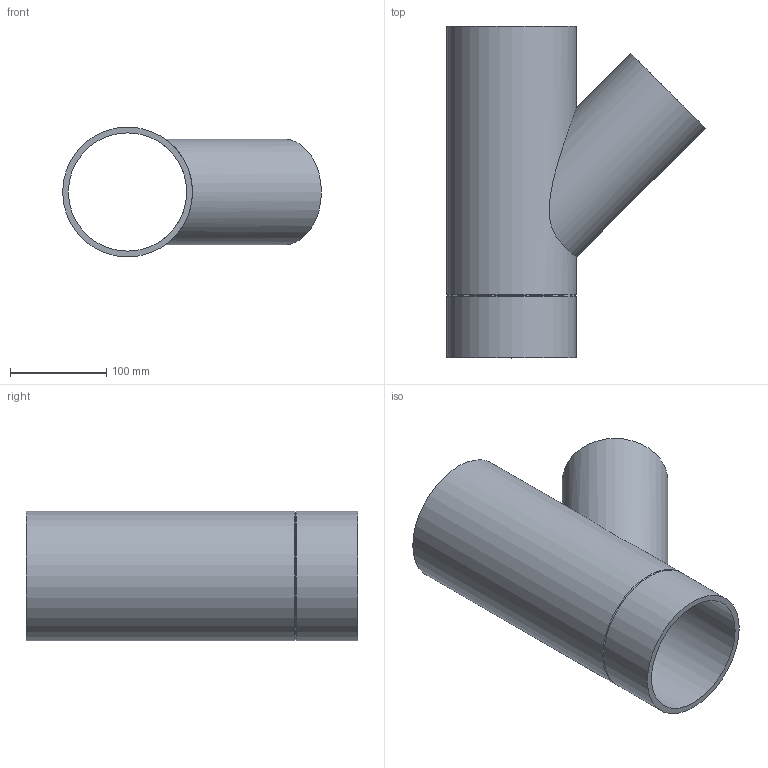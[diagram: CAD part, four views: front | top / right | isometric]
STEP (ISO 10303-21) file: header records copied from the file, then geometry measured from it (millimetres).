
FILE_DESCRIPTION(/* description */ (''),/* implementation_level */ '2;1');
FILE_NAME(/* name */ 'Z:\Geberit\Export\Export18\Abzweig Gerade_Ipart\stp\312104.stp',/* time_stamp */ '2014-08-26T21:52:23+02:00',/* author */ ('ML'),/* organization */ (''),/* preprocessor_version */ 'ST-DEVELOPER v15.2',/* originating_system */ 'Autodesk Inventor 2014',/* authorisation */ '');
FILE_SCHEMA (('AUTOMOTIVE_DESIGN { 1 0 10303 214 3 1 1 }'));
Length unit declared in the file: millimetre
Products named in the file (1): 312104
Bounding box: 269.03 x 345 x 135 mm (x, y, z)
Volume: 1064689.8 mm3; surface area: 362216.9 mm2
Topology: 1 solids, 1 shells, 10 faces, 25 edges, 17 vertices
Faces by surface type: cylinder 5, plane 3, cone 2
Full cylindrical faces by diameter (mm): 98 x1, 110 x1, 123 x1, 135 x2
Entity records: 395 total; most frequent: CARTESIAN_POINT 191, DIRECTION 40, EDGE_LOOP 22, ORIENTED_EDGE 22, AXIS2_PLACEMENT_3D 20, FACE_BOUND 17, VERTEX_POINT 11, EDGE_CURVE 11
